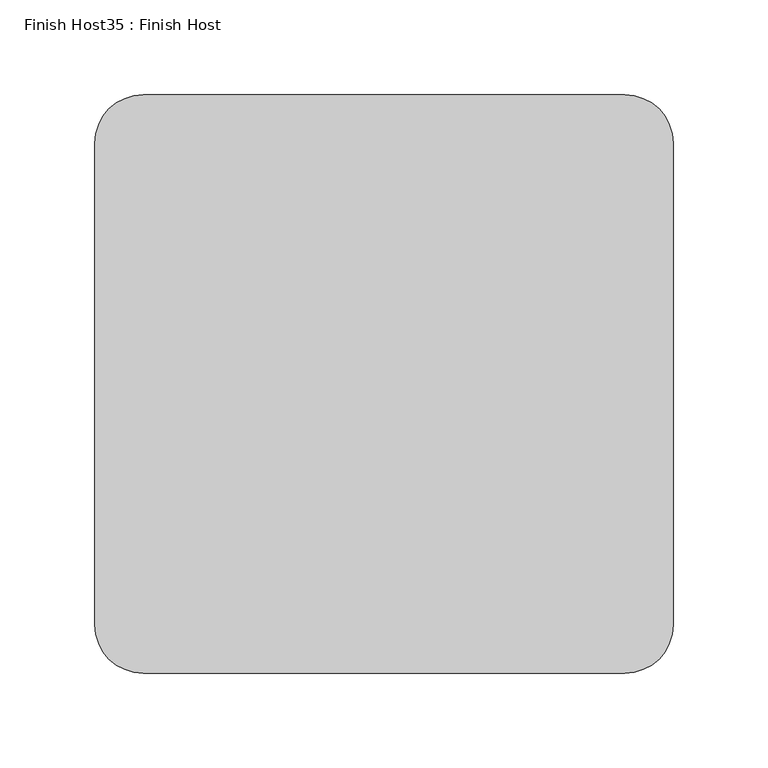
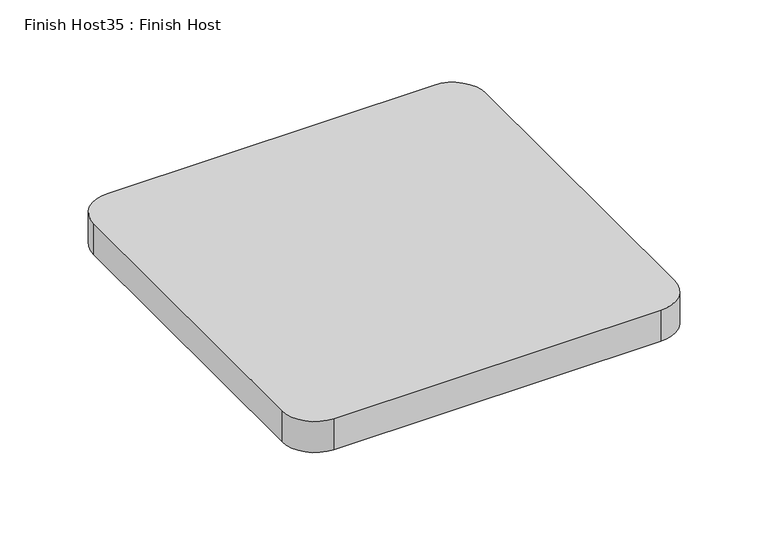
"""IFC4 building model written with IfcOpenShell, lengths in millimetres: proxy geometry, Finish Host35 : Finish Host."""

from ifc_helpers import new_model, si_unit, point, frame_2d, origin, origin_with_axes, place, context, project, spatial, polyline, circle_curve, trimmed, segment, composite_curve, outline, extrude, source, transform, mapped, element, save


def finish_host35_finish_host_9bd3dcf6(model_context):
    return source(origin(), model_context, "Body", "SweptSolid", [
        extrude(outline(composite_curve([segment(polyline([(5203.3649374, 1108.9667263), (5203.3649374, 1362.9667263)]), True, "CONTINUOUS"), segment(trimmed(circle_curve(frame_2d((5228.7649374, 1362.9667263)), 25.4), [point((5203.3649374, 1362.9667263))], [point((5228.7649374, 1388.3667263))], False, "CARTESIAN"), True, "CONTINUOUS"), segment(polyline([(5228.7649374, 1388.3667263), (5482.7649374, 1388.3667263)]), True, "CONTINUOUS"), segment(trimmed(circle_curve(frame_2d((5482.7649374, 1362.9667263)), 25.4), [point((5482.7649374, 1388.3667263))], [point((5508.1649374, 1362.9667263))], False, "CARTESIAN"), True, "CONTINUOUS"), segment(polyline([(5508.1649374, 1362.9667263), (5508.1649374, 1108.9667263)]), True, "CONTINUOUS"), segment(trimmed(circle_curve(frame_2d((5482.7649374, 1108.9667263)), 25.4), [point((5508.1649374, 1108.9667263))], [point((5482.7649374, 1083.5667263))], False, "CARTESIAN"), True, "CONTINUOUS"), segment(polyline([(5482.7649374, 1083.5667263), (5228.7649374, 1083.5667263)]), True, "CONTINUOUS"), segment(trimmed(circle_curve(frame_2d((5228.7649374, 1108.9667263)), 25.4), [point((5228.7649374, 1083.5667263))], [point((5203.3649374, 1108.9667263))], False, "CARTESIAN"), True, "CONTINUOUS")], self_intersect=False)), origin_with_axes(), (0.0, 0.0, 1.0), 25.4),
    ])


if __name__ == "__main__":
    model = new_model("IFC4")
    model_context = context("Model", 3, world=origin())
    ifc_project = project(units=[si_unit("LENGTHUNIT", "METRE", prefix="MILLI")], contexts=[model_context])
    site = spatial("IfcSite", under=ifc_project)
    building = spatial("IfcBuilding", under=site)
    placement = place(None, origin())
    finish_host35_finish_host_shape = finish_host35_finish_host_9bd3dcf6(model_context)
    element("IfcBuildingElementProxy", 1, Name="Finish Host35 : Finish Host", ObjectType="Finish Host35 : Finish Host", at=placement, inside=building, context=model_context, shape_type="MappedRepresentation", body=[
        mapped(finish_host35_finish_host_shape, transform((0.0, 0.0, 0.0), x_axis=(1.0, 0.0, 0.0), y_axis=(0.0, 1.0, 0.0), z_axis=(0.0, 0.0, 1.0))),
    ])
    save(model, "model.ifc")
